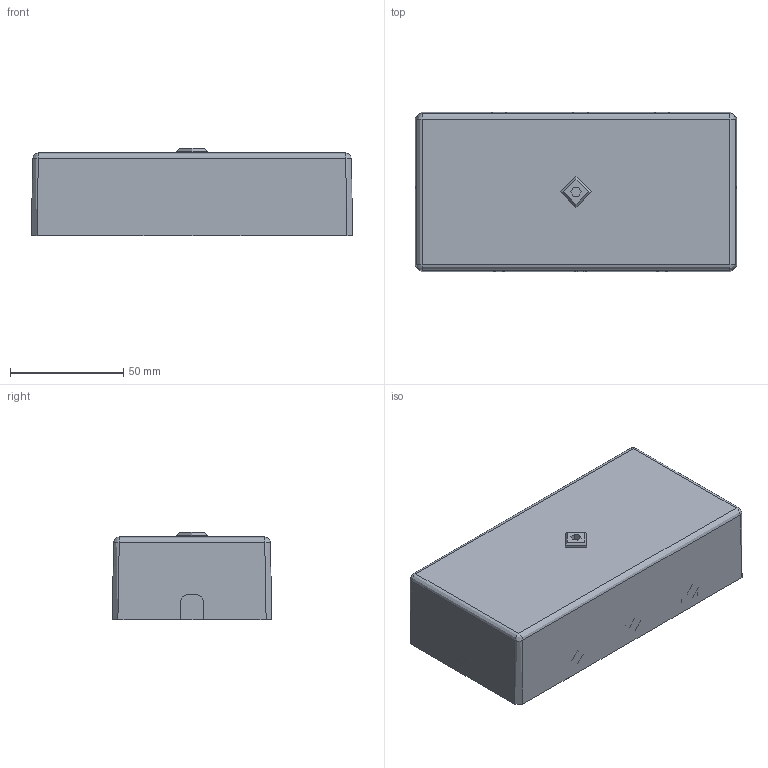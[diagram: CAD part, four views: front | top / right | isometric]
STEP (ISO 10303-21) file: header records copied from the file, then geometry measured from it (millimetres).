
FILE_DESCRIPTION(('STEP AP203'), '1');
FILE_NAME('ﾊﾌ-ﾎ-IP41-d', '', ('UNSPECIFIED'), ('UNSPECIFIED'), 'ASCON STEP Converter 1.6', 'ASCON Math Kernel', '');
FILE_SCHEMA(('CONFIG_CONTROL_DESIGN'));
Length unit declared in the file: millimetre
Bounding box: 142 x 70.5 x 38.56 mm (x, y, z)
Topology: 13 solids, 22 shells, 1797 faces, 4798 edges, 2940 vertices
Faces by surface type: plane 950, cylinder 556, sphere 136, torus 97, bspline 40, cone 18
Full cylindrical faces by diameter (mm): 1 x8, 1.2 x16, 2.5 x56, 2.9 x4, 3 x10, 3.4 x6, 3.5 x16, 4 x18, 4.22 x4, 4.25 x12, 4.5 x4, 5 x4, 5.6 x1, 5.7 x4, 6 x6, 6.3 x4, 6.5 x1, 7 x2, 7.5 x1, 9 x1, 13.5 x1, 17 x1
Entity records: 91098 total; most frequent: CARTESIAN_POINT 32237, DIRECTION 9307, ORIENTED_EDGE 8942, EDGE_CURVE 4471, AXIS2_PLACEMENT_3D 3374, VERTEX_POINT 2932, LINE 2559, VECTOR 2559
